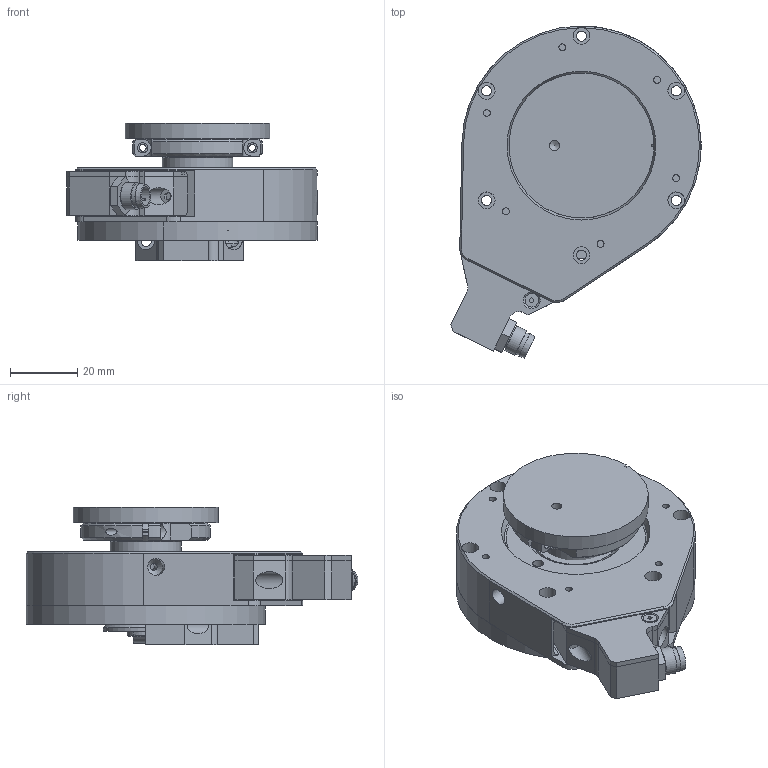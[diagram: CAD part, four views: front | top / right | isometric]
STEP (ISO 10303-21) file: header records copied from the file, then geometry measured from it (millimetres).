
FILE_DESCRIPTION( ( 'Unknown' ), '1' );
FILE_NAME( 'G:/DRAWINGS/99-/EXPORT/x_t-stp-jpg/99-0009a.stp', 'Unknown', ( 'Unknown' ), ( 'Unknown' ), 'XStep 1.0', 'Unknown', ' ' );
FILE_SCHEMA( ( 'automotive_design' ) );
Length unit declared in the file: millimetre
Products named in the file (13): Assem1; 48009; 48153; 93505-P1013; 91506-B1047; 93505-C1082; 90511-B1023A; 90511-B1025; 90511-C1024; 90511-C1022; 90511-C1021; 90511-D1026
Bounding box: 74.24 x 98.52 x 40.75 mm (x, y, z)
Volume: 168603.1 mm3; surface area: 102286.7 mm2
Topology: 26 solids, 26 shells, 1088 faces, 2705 edges, 1784 vertices
Faces by surface type: cylinder 490, plane 405, cone 119, torus 74
Full cylindrical faces by diameter (mm): 0.6 x6, 1.02 x4, 1.6 x8, 1.9 x8, 2 x3, 2.006 x8, 2.05 x36, 2.25 x4, 2.495 x4, 2.5 x11, 2.54 x8, 2.995 x2, 3 x44, 3.032 x2, 3.25 x8, 3.3 x4, 3.5 x34, 3.967 x2, 4 x3, 4.2 x2, 4.5 x3, 5 x36, 5.16 x2, 5.7 x2, 6.25 x8, 6.992 x4, 7 x4, 7.97 x4, 8 x4, 8.435 x2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
Entity records: 15553 total; most frequent: CARTESIAN_POINT 3562, DIRECTION 2551, ORIENTED_EDGE 2008, AXIS2_PLACEMENT_3D 1092, EDGE_CURVE 1004, EDGE_LOOP 935, VERTEX_POINT 775, FACE_OUTER_BOUND 692
